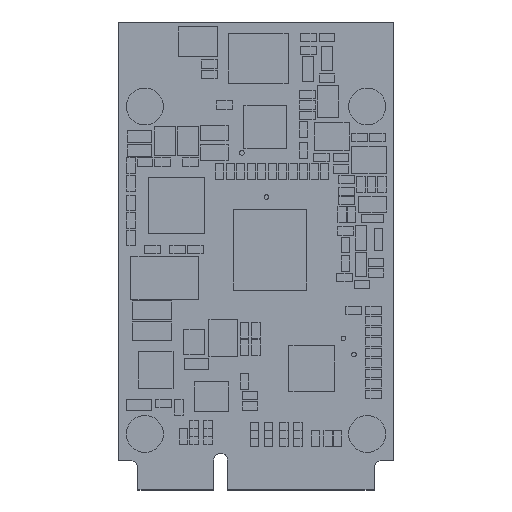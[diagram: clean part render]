
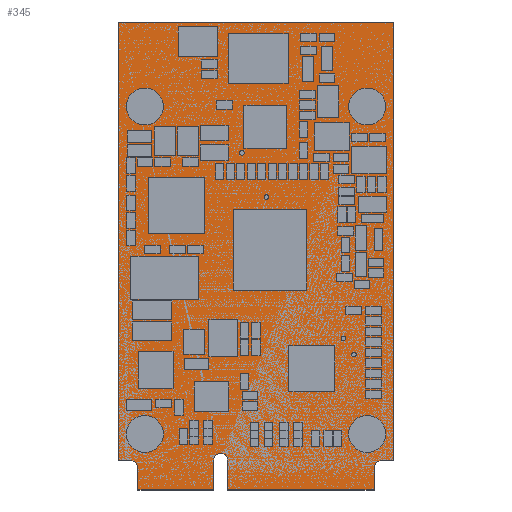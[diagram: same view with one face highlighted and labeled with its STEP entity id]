
A CAD part, top view. The second image highlights one B-rep face of the part: STEP entity #345.
In plain terms, the highlighted planar face has unit normal (0, 0, 1).
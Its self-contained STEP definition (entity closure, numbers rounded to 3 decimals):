
#65=DIRECTION('',(-1.,0.,0.));
#66=VECTOR('',#65,1.35);
#67=CARTESIAN_POINT('',(30.,3.2,0.));
#68=LINE('',#67,#66);
#69=CARTESIAN_POINT('',(28.65,2.4,0.));
#70=DIRECTION('',(0.,0.,1.));
#71=DIRECTION('',(0.,1.,0.));
#72=AXIS2_PLACEMENT_3D('',#69,#70,#71);
#74=DIRECTION('',(0.,-1.,0.));
#75=VECTOR('',#74,2.4);
#76=CARTESIAN_POINT('',(27.85,2.4,0.));
#77=LINE('',#76,#75);
#78=DIRECTION('',(-1.,0.,0.));
#79=VECTOR('',#78,15.95);
#80=CARTESIAN_POINT('',(27.85,0.,0.));
#81=LINE('',#80,#79);
#82=DIRECTION('',(0.,1.,0.));
#83=VECTOR('',#82,3.25);
#84=CARTESIAN_POINT('',(11.9,0.,0.));
#85=LINE('',#84,#83);
#86=CARTESIAN_POINT('',(11.15,3.25,0.));
#87=DIRECTION('',(0.,0.,1.));
#88=DIRECTION('',(1.,0.,0.));
#89=AXIS2_PLACEMENT_3D('',#86,#87,#88);
#91=DIRECTION('',(0.,-1.,0.));
#92=VECTOR('',#91,3.25);
#93=CARTESIAN_POINT('',(10.4,3.25,0.));
#94=LINE('',#93,#92);
#95=DIRECTION('',(-1.,0.,0.));
#96=VECTOR('',#95,8.25);
#97=CARTESIAN_POINT('',(10.4,0.,0.));
#98=LINE('',#97,#96);
#99=DIRECTION('',(0.,1.,0.));
#100=VECTOR('',#99,2.4);
#101=CARTESIAN_POINT('',(2.15,0.,0.));
#102=LINE('',#101,#100);
#103=CARTESIAN_POINT('',(1.35,2.4,0.));
#104=DIRECTION('',(0.,0.,1.));
#105=DIRECTION('',(1.,0.,0.));
#106=AXIS2_PLACEMENT_3D('',#103,#104,#105);
#108=DIRECTION('',(-1.,0.,0.));
#109=VECTOR('',#108,1.35);
#110=CARTESIAN_POINT('',(1.35,3.2,0.));
#111=LINE('',#110,#109);
#112=DIRECTION('',(0.,1.,0.));
#113=VECTOR('',#112,47.75);
#114=CARTESIAN_POINT('',(0.,3.2,0.));
#115=LINE('',#114,#113);
#116=DIRECTION('',(1.,0.,0.));
#117=VECTOR('',#116,30.);
#118=CARTESIAN_POINT('',(0.,50.95,0.));
#119=LINE('',#118,#117);
#120=DIRECTION('',(0.,-1.,0.));
#121=VECTOR('',#120,47.75);
#122=CARTESIAN_POINT('',(30.,50.95,0.));
#123=LINE('',#122,#121);
#239=CARTESIAN_POINT('',(30.,50.95,0.));
#240=CARTESIAN_POINT('',(30.,3.2,0.));
#241=VERTEX_POINT('',#239);
#242=VERTEX_POINT('',#240);
#247=CARTESIAN_POINT('',(28.65,3.2,0.));
#248=VERTEX_POINT('',#247);
#249=CARTESIAN_POINT('',(27.85,2.4,0.));
#250=VERTEX_POINT('',#249);
#251=CARTESIAN_POINT('',(27.85,0.,0.));
#252=VERTEX_POINT('',#251);
#253=CARTESIAN_POINT('',(11.9,0.,0.));
#254=VERTEX_POINT('',#253);
#255=CARTESIAN_POINT('',(11.9,3.25,0.));
#256=VERTEX_POINT('',#255);
#257=CARTESIAN_POINT('',(10.4,3.25,0.));
#258=VERTEX_POINT('',#257);
#259=CARTESIAN_POINT('',(10.4,0.,0.));
#260=VERTEX_POINT('',#259);
#261=CARTESIAN_POINT('',(2.15,0.,0.));
#262=VERTEX_POINT('',#261);
#263=CARTESIAN_POINT('',(2.15,2.4,0.));
#264=VERTEX_POINT('',#263);
#265=CARTESIAN_POINT('',(1.35,3.2,0.));
#266=VERTEX_POINT('',#265);
#267=CARTESIAN_POINT('',(0.,3.2,0.));
#268=VERTEX_POINT('',#267);
#269=CARTESIAN_POINT('',(0.,50.95,0.));
#270=VERTEX_POINT('',#269);
#311=CARTESIAN_POINT('',(68.65,108.1,0.));
#312=DIRECTION('',(0.,0.,1.));
#313=DIRECTION('',(1.,0.,0.));
#314=AXIS2_PLACEMENT_3D('',#311,#312,#313);
#315=PLANE('',#314);
#317=ORIENTED_EDGE('',*,*,#316,.T.);
#319=ORIENTED_EDGE('',*,*,#318,.T.);
#321=ORIENTED_EDGE('',*,*,#320,.T.);
#323=ORIENTED_EDGE('',*,*,#322,.T.);
#325=ORIENTED_EDGE('',*,*,#324,.T.);
#327=ORIENTED_EDGE('',*,*,#326,.T.);
#329=ORIENTED_EDGE('',*,*,#328,.T.);
#331=ORIENTED_EDGE('',*,*,#330,.T.);
#333=ORIENTED_EDGE('',*,*,#332,.T.);
#335=ORIENTED_EDGE('',*,*,#334,.T.);
#337=ORIENTED_EDGE('',*,*,#336,.T.);
#339=ORIENTED_EDGE('',*,*,#338,.T.);
#341=ORIENTED_EDGE('',*,*,#340,.T.);
#342=ORIENTED_EDGE('',*,*,#300,.T.);
#343=EDGE_LOOP('',(#317,#319,#321,#323,#325,#327,#329,#331,#333,#335,#337,#339,
#341,#342));
#344=FACE_OUTER_BOUND('',#343,.F.);
#73=CIRCLE('',#72,0.8);
#90=CIRCLE('',#89,0.75);
#107=CIRCLE('',#106,0.8);
#300=EDGE_CURVE('',#241,#242,#123,.T.);
#316=EDGE_CURVE('',#242,#248,#68,.T.);
#318=EDGE_CURVE('',#248,#250,#73,.T.);
#320=EDGE_CURVE('',#250,#252,#77,.T.);
#322=EDGE_CURVE('',#252,#254,#81,.T.);
#324=EDGE_CURVE('',#254,#256,#85,.T.);
#326=EDGE_CURVE('',#256,#258,#90,.T.);
#328=EDGE_CURVE('',#258,#260,#94,.T.);
#330=EDGE_CURVE('',#260,#262,#98,.T.);
#332=EDGE_CURVE('',#262,#264,#102,.T.);
#334=EDGE_CURVE('',#264,#266,#107,.T.);
#336=EDGE_CURVE('',#266,#268,#111,.T.);
#338=EDGE_CURVE('',#268,#270,#115,.T.);
#340=EDGE_CURVE('',#270,#241,#119,.T.);
#345=ADVANCED_FACE('',(#344),#315,.T.);
